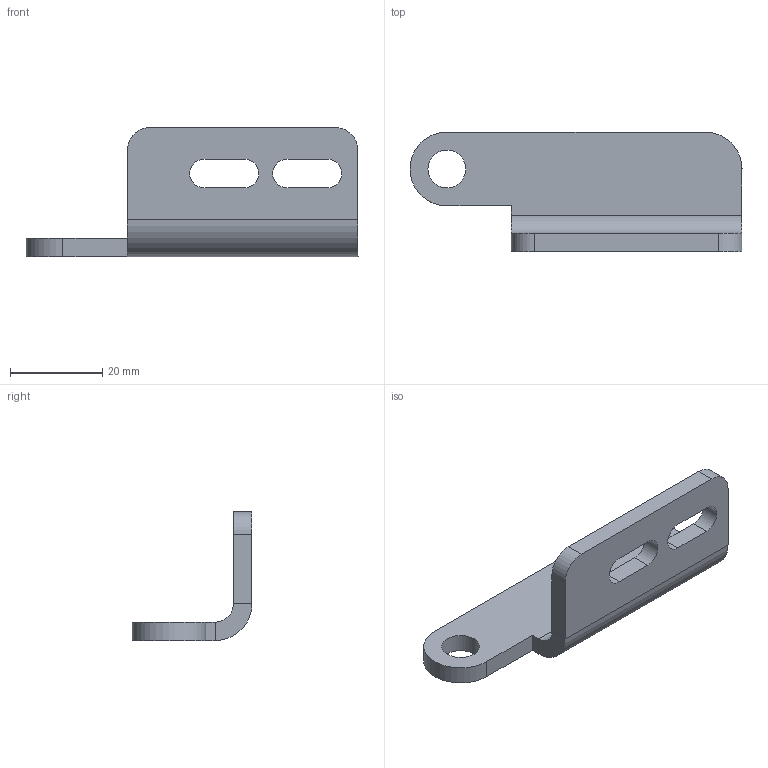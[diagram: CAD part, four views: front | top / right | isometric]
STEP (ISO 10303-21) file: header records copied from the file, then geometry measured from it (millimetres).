
FILE_DESCRIPTION (( 'STEP AP203' ), '1' );
FILE_NAME ('ORW-72.24.50.002 赶鎀鍧.STEP', '2025-10-13T13:18:07', ( '燴僽樥' ), ( '' ), 'SwSTEP 2.0', 'SolidWorks 2025', '' );
FILE_SCHEMA (( 'CONFIG_CONTROL_DESIGN' ));
Length unit declared in the file: millimetre
Products named in the file (1): ORW-72.24.50.002 Уголок_Зеркально отразитьПо умолчанию
Bounding box: 72 x 26 x 28 mm (x, y, z)
Volume: 9796 mm3; surface area: 6194.7 mm2
Topology: 1 solids, 1 shells, 28 faces, 70 edges, 44 vertices
Faces by surface type: plane 17, cylinder 11
Full cylindrical faces by diameter (mm): 8.2 x1
Entity records: 914 total; most frequent: DIRECTION 149, CARTESIAN_POINT 142, ORIENTED_EDGE 138, EDGE_CURVE 69, AXIS2_PLACEMENT_3D 51, LINE 47, VECTOR 47, VERTEX_POINT 44
